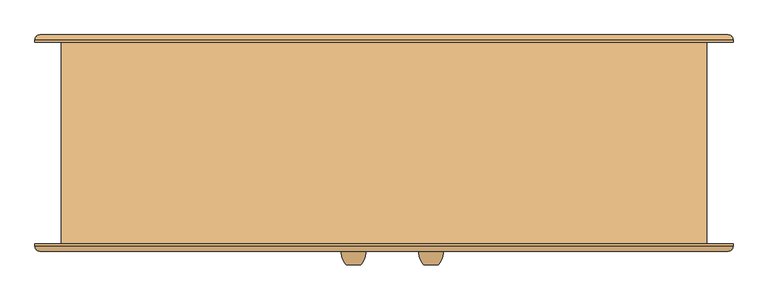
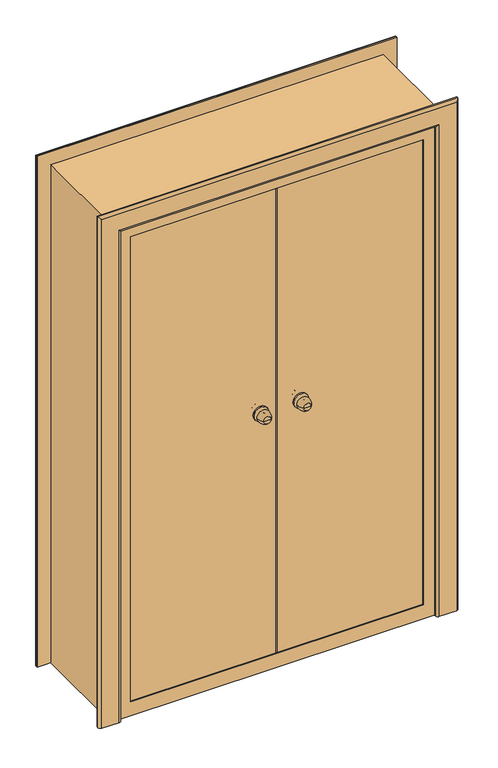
"""IFC4 building model written with IfcOpenShell, lengths in millimetres: door geometry, Наружная дверь 2-Навесная - Один проем наружу с порогом - 31173-2003 : ДСН ДКН М2 2100-1300 ГОСТ 31173-2003."""

from ifc_helpers import new_model, si_unit, point, frame, origin, place, context, project, spatial, polyline, circle_curve, ellipse_curve, trimmed, outline, extrude, faceted_brep, source, transform, mapped, element, save
from ifc_brep_helpers import plane_surface, cylinder_surface, revolved_surface, advanced_brep


def door_dd7598a4(model_context):
    return source(origin(), model_context, "Body", "SolidModel", [
        advanced_brep(
        [(113.0, -253.0, 1100.0), (83.0, -253.0, 1100.0), (98.0, -253.0, 1100.0), (123.0, -223.0, 1100.0), (73.0, -223.0, 1100.0), (116.0, -223.0, 1100.0), (80.0, -223.0, 1100.0), (108.0, -215.0, 1100.0), (88.0, -215.0, 1100.0), (108.0, -209.0, 1100.0), (88.0, -209.0, 1100.0), (68.0, -209.0, 1100.0), (128.0, -209.0, 1100.0), (68.0, -203.0, 1100.0), (128.0, -203.0, 1100.0)],
        [
            (0, 1, circle_curve(frame((98.0, -253.0, 1100.0), z_axis=(0.0, -1.0, 0.0), x_axis=(-1.0, 0.0, 0.0)), 15.0)),
            (1, 2),
            (2, 0),
            (1, 0, circle_curve(frame((98.0, -253.0, 1100.0), z_axis=(0.0, -1.0, 0.0), x_axis=(-1.0, 0.0, 0.0)), 15.0)),
            (0, 3, circle_curve(frame((88.3773735, -228.1257912, 1100.0), z_axis=(0.0, 0.0, 1.0), x_axis=(-1.0, 0.0, 0.0)), 35.0)),
            (3, 4, circle_curve(frame((98.0, -223.0, 1100.0), z_axis=(0.0, -1.0, 0.0), x_axis=(-1.0, 0.0, 0.0)), 25.0)),
            (4, 1, circle_curve(frame((107.6226265, -228.1257912, 1100.0), z_axis=(0.0, 0.0, 1.0), x_axis=(1.0, 0.0, 0.0)), 35.0)),
            (4, 3, circle_curve(frame((98.0, -223.0, 1100.0), z_axis=(0.0, -1.0, 0.0), x_axis=(-1.0, 0.0, 0.0)), 25.0)),
            (3, 5),
            (5, 6, circle_curve(frame((98.0, -223.0, 1100.0), z_axis=(0.0, -1.0, 0.0), x_axis=(-1.0, 0.0, 0.0)), 18.0)),
            (6, 4),
            (6, 5, circle_curve(frame((98.0, -223.0, 1100.0), z_axis=(0.0, -1.0, 0.0), x_axis=(-1.0, 0.0, 0.0)), 18.0)),
            (5, 7, circle_curve(frame((116.0, -215.0, 1100.0), z_axis=(0.0, 0.0, -1.0), x_axis=(-1.0, 0.0, 0.0)), 8.0)),
            (7, 8, circle_curve(frame((98.0, -215.0, 1100.0), z_axis=(0.0, -1.0, 0.0), x_axis=(-1.0, 0.0, 0.0)), 10.0)),
            (8, 6, circle_curve(frame((80.0, -215.0, 1100.0), z_axis=(0.0, 0.0, -1.0), x_axis=(1.0, 0.0, 0.0)), 8.0)),
            (8, 7, circle_curve(frame((98.0, -215.0, 1100.0), z_axis=(0.0, -1.0, 0.0), x_axis=(-1.0, 0.0, 0.0)), 10.0)),
            (7, 9),
            (9, 10, circle_curve(frame((98.0, -209.0, 1100.0), z_axis=(0.0, -1.0, 0.0), x_axis=(-1.0, 0.0, 0.0)), 10.0)),
            (10, 8),
            (10, 9, circle_curve(frame((98.0, -209.0, 1100.0), z_axis=(0.0, -1.0, 0.0), x_axis=(-1.0, 0.0, 0.0)), 10.0)),
            (11, 12, circle_curve(frame((98.0, -209.0, 1100.0), z_axis=(0.0, -1.0, 0.0), x_axis=(1.0, 0.0, 0.0)), 30.0)),
            (12, 11, circle_curve(frame((98.0, -209.0, 1100.0), z_axis=(0.0, -1.0, 0.0), x_axis=(1.0, 0.0, 0.0)), 30.0)),
            (13, 14, circle_curve(frame((98.0, -203.0, 1100.0), z_axis=(0.0, 1.0, 0.0), x_axis=(1.0, 0.0, 0.0)), 30.0)),
            (14, 13, circle_curve(frame((98.0, -203.0, 1100.0), z_axis=(0.0, 1.0, 0.0), x_axis=(1.0, 0.0, 0.0)), 30.0)),
            (11, 13),
            (14, 12),
        ],
        [
            plane_surface(frame((98.0, -253.0, 1100.0), z_axis=(0.0, -1.0, 0.0), x_axis=(-1.0, 0.0, 0.0))),
            revolved_surface(trimmed(ellipse_curve(frame((107.6226265, -228.1257912, 1100.0), z_axis=(0.0, 0.0, -1.0), x_axis=(1.0, 0.0, 0.0)), 35.0, 35.0), [point((83.0, -253.0, 1100.0))], [point((73.0, -223.0, 1100.0))], True, "CARTESIAN"), (98.0, -283.0, 1100.0), (0.0, 1.0, 0.0)),
            plane_surface(frame((98.0, -223.0, 1100.0), z_axis=(0.0, 1.0, 0.0), x_axis=(-1.0, 0.0, 0.0))),
            revolved_surface(trimmed(ellipse_curve(frame((80.0, -215.0, 1100.0), z_axis=(0.0, 0.0, 1.0), x_axis=(1.0, 0.0, 0.0)), 8.0, 8.0), [point((80.0, -223.0, 1100.0))], [point((88.0, -215.0, 1100.0))], True, "CARTESIAN"), (98.0, -283.0, 1100.0), (0.0, 1.0, 0.0)),
            cylinder_surface(frame((98.0, -283.0, 1100.0), z_axis=(0.0, 1.0, 0.0), x_axis=(-1.0, 0.0, 0.0)), 10.0),
            plane_surface(frame((128.0, -209.0, 1100.0), z_axis=(0.0, -1.0, 0.0), x_axis=(0.0, 0.0, 1.0))),
            plane_surface(frame((128.0, -203.0, 1100.0), z_axis=(0.0, 1.0, 0.0), x_axis=(0.0, 0.0, -1.0))),
            cylinder_surface(frame((98.0, -203.0, 1100.0), z_axis=(0.0, -1.0, 0.0), x_axis=(1.0, 0.0, 0.0)), 30.0),
        ],
        [
            (0, [[1, 2, 3]]),
            (0, [[-2, 4, -3]]),
            (1, [[-1, 5, 6, 7]]),
            (1, [[-4, -7, 8, -5]]),
            (2, [[-6, 9, 10, 11]]),
            (2, [[-8, -11, 12, -9]]),
            (3, [[-10, 13, 14, 15]]),
            (3, [[-12, -15, 16, -13]]),
            (4, [[-14, 17, 18, 19]]),
            (4, [[-16, -19, 20, -17]]),
            (5, [[21, 22], [-18, -20]]),
            (6, [[23, 24]]),
            (7, [[-21, 25, -24, 26]]),
            (7, [[-22, -26, -23, -25]]),
        ],
    ),
        advanced_brep(
        [(83.0, -113.0, 1100.0), (113.0, -113.0, 1100.0), (98.0, -113.0, 1100.0), (73.0, -143.0, 1100.0), (123.0, -143.0, 1100.0), (80.0, -143.0, 1100.0), (116.0, -143.0, 1100.0), (88.0, -151.0, 1100.0), (108.0, -151.0, 1100.0), (88.0, -157.0, 1100.0), (108.0, -157.0, 1100.0), (128.0, -157.0, 1100.0), (68.0, -157.0, 1100.0), (128.0, -163.0, 1100.0), (68.0, -163.0, 1100.0)],
        [
            (0, 1, circle_curve(frame((98.0, -113.0, 1100.0), z_axis=(0.0, 1.0, 0.0), x_axis=(1.0, 0.0, 0.0)), 15.0)),
            (1, 2),
            (2, 0),
            (1, 0, circle_curve(frame((98.0, -113.0, 1100.0), z_axis=(0.0, 1.0, 0.0), x_axis=(1.0, 0.0, 0.0)), 15.0)),
            (0, 3, circle_curve(frame((107.6226265, -137.8742088, 1100.0), z_axis=(0.0, 0.0, 1.0), x_axis=(1.0, 0.0, 0.0)), 35.0)),
            (3, 4, circle_curve(frame((98.0, -143.0, 1100.0), z_axis=(0.0, 1.0, 0.0), x_axis=(1.0, 0.0, 0.0)), 25.0)),
            (4, 1, circle_curve(frame((88.3773735, -137.8742088, 1100.0), z_axis=(0.0, 0.0, 1.0), x_axis=(-1.0, 0.0, 0.0)), 35.0)),
            (4, 3, circle_curve(frame((98.0, -143.0, 1100.0), z_axis=(0.0, 1.0, 0.0), x_axis=(1.0, 0.0, 0.0)), 25.0)),
            (3, 5),
            (5, 6, circle_curve(frame((98.0, -143.0, 1100.0), z_axis=(0.0, 1.0, 0.0), x_axis=(1.0, 0.0, 0.0)), 18.0)),
            (6, 4),
            (6, 5, circle_curve(frame((98.0, -143.0, 1100.0), z_axis=(0.0, 1.0, 0.0), x_axis=(1.0, 0.0, 0.0)), 18.0)),
            (5, 7, circle_curve(frame((80.0, -151.0, 1100.0), z_axis=(0.0, 0.0, -1.0), x_axis=(1.0, 0.0, 0.0)), 8.0)),
            (7, 8, circle_curve(frame((98.0, -151.0, 1100.0), z_axis=(0.0, 1.0, 0.0), x_axis=(1.0, 0.0, 0.0)), 10.0)),
            (8, 6, circle_curve(frame((116.0, -151.0, 1100.0), z_axis=(0.0, 0.0, -1.0), x_axis=(-1.0, 0.0, 0.0)), 8.0)),
            (8, 7, circle_curve(frame((98.0, -151.0, 1100.0), z_axis=(0.0, 1.0, 0.0), x_axis=(1.0, 0.0, 0.0)), 10.0)),
            (7, 9),
            (9, 10, circle_curve(frame((98.0, -157.0, 1100.0), z_axis=(0.0, 1.0, 0.0), x_axis=(1.0, 0.0, 0.0)), 10.0)),
            (10, 8),
            (10, 9, circle_curve(frame((98.0, -157.0, 1100.0), z_axis=(0.0, 1.0, 0.0), x_axis=(1.0, 0.0, 0.0)), 10.0)),
            (11, 12, circle_curve(frame((98.0, -157.0, 1100.0), z_axis=(0.0, 1.0, 0.0), x_axis=(-1.0, 0.0, 0.0)), 30.0)),
            (12, 11, circle_curve(frame((98.0, -157.0, 1100.0), z_axis=(0.0, 1.0, 0.0), x_axis=(-1.0, 0.0, 0.0)), 30.0)),
            (13, 14, circle_curve(frame((98.0, -163.0, 1100.0), z_axis=(0.0, -1.0, 0.0), x_axis=(-1.0, 0.0, 0.0)), 30.0)),
            (14, 13, circle_curve(frame((98.0, -163.0, 1100.0), z_axis=(0.0, -1.0, 0.0), x_axis=(-1.0, 0.0, 0.0)), 30.0)),
            (11, 13),
            (14, 12),
        ],
        [
            plane_surface(frame((98.0, -113.0, 1100.0), z_axis=(0.0, 1.0, 0.0), x_axis=(1.0, 0.0, 0.0))),
            revolved_surface(trimmed(ellipse_curve(frame((88.3773735, -137.8742088, 1100.0), z_axis=(0.0, 0.0, -1.0), x_axis=(-1.0, 0.0, 0.0)), 35.0, 35.0), [point((113.0, -113.0, 1100.0))], [point((123.0, -143.0, 1100.0))], True, "CARTESIAN"), (98.0, -83.0, 1100.0), (0.0, -1.0, 0.0)),
            plane_surface(frame((98.0, -143.0, 1100.0), z_axis=(0.0, -1.0, 0.0), x_axis=(1.0, 0.0, 0.0))),
            revolved_surface(trimmed(ellipse_curve(frame((116.0, -151.0, 1100.0), z_axis=(0.0, 0.0, 1.0), x_axis=(-1.0, 0.0, 0.0)), 8.0, 8.0), [point((116.0, -143.0, 1100.0))], [point((108.0, -151.0, 1100.0))], True, "CARTESIAN"), (98.0, -83.0, 1100.0), (0.0, -1.0, 0.0)),
            cylinder_surface(frame((98.0, -83.0, 1100.0), z_axis=(0.0, -1.0, 0.0), x_axis=(1.0, 0.0, 0.0)), 10.0),
            plane_surface(frame((68.0, -157.0, 1100.0), z_axis=(0.0, 1.0, 0.0), x_axis=(0.0, 0.0, 1.0))),
            plane_surface(frame((68.0, -163.0, 1100.0), z_axis=(0.0, -1.0, 0.0), x_axis=(0.0, 0.0, -1.0))),
            cylinder_surface(frame((98.0, -163.0, 1100.0), z_axis=(0.0, 1.0, 0.0), x_axis=(-1.0, 0.0, 0.0)), 30.0),
        ],
        [
            (0, [[1, 2, 3]]),
            (0, [[-2, 4, -3]]),
            (1, [[-1, 5, 6, 7]]),
            (1, [[-4, -7, 8, -5]]),
            (2, [[-6, 9, 10, 11]]),
            (2, [[-8, -11, 12, -9]]),
            (3, [[-10, 13, 14, 15]]),
            (3, [[-12, -15, 16, -13]]),
            (4, [[-14, 17, 18, 19]]),
            (4, [[-16, -19, 20, -17]]),
            (5, [[21, 22], [-18, -20]]),
            (6, [[23, 24]]),
            (7, [[-21, 25, -24, 26]]),
            (7, [[-22, -26, -23, -25]]),
        ],
    ),
        advanced_brep(
        [(-48.0, -253.0, 1100.0), (-78.0, -253.0, 1100.0), (-63.0, -253.0, 1100.0), (-38.0, -223.0, 1100.0), (-88.0, -223.0, 1100.0), (-45.0, -223.0, 1100.0), (-81.0, -223.0, 1100.0), (-53.0, -215.0, 1100.0), (-73.0, -215.0, 1100.0), (-53.0, -209.0, 1100.0), (-73.0, -209.0, 1100.0), (-93.0, -209.0, 1100.0), (-33.0, -209.0, 1100.0), (-93.0, -203.0, 1100.0), (-33.0, -203.0, 1100.0)],
        [
            (0, 1, circle_curve(frame((-63.0, -253.0, 1100.0), z_axis=(0.0, -1.0, 0.0), x_axis=(-1.0, 0.0, 0.0)), 15.0)),
            (1, 2),
            (2, 0),
            (1, 0, circle_curve(frame((-63.0, -253.0, 1100.0), z_axis=(0.0, -1.0, 0.0), x_axis=(-1.0, 0.0, 0.0)), 15.0)),
            (0, 3, circle_curve(frame((-72.6226265, -228.1257912, 1100.0), z_axis=(0.0, 0.0, 1.0), x_axis=(-1.0, 0.0, 0.0)), 35.0)),
            (3, 4, circle_curve(frame((-63.0, -223.0, 1100.0), z_axis=(0.0, -1.0, 0.0), x_axis=(-1.0, 0.0, 0.0)), 25.0)),
            (4, 1, circle_curve(frame((-53.3773735, -228.1257912, 1100.0), z_axis=(0.0, 0.0, 1.0), x_axis=(1.0, 0.0, 0.0)), 35.0)),
            (4, 3, circle_curve(frame((-63.0, -223.0, 1100.0), z_axis=(0.0, -1.0, 0.0), x_axis=(-1.0, 0.0, 0.0)), 25.0)),
            (3, 5),
            (5, 6, circle_curve(frame((-63.0, -223.0, 1100.0), z_axis=(0.0, -1.0, 0.0), x_axis=(-1.0, 0.0, 0.0)), 18.0)),
            (6, 4),
            (6, 5, circle_curve(frame((-63.0, -223.0, 1100.0), z_axis=(0.0, -1.0, 0.0), x_axis=(-1.0, 0.0, 0.0)), 18.0)),
            (5, 7, circle_curve(frame((-45.0, -215.0, 1100.0), z_axis=(0.0, 0.0, -1.0), x_axis=(-1.0, 0.0, 0.0)), 8.0)),
            (7, 8, circle_curve(frame((-63.0, -215.0, 1100.0), z_axis=(0.0, -1.0, 0.0), x_axis=(-1.0, 0.0, 0.0)), 10.0)),
            (8, 6, circle_curve(frame((-81.0, -215.0, 1100.0), z_axis=(0.0, 0.0, -1.0), x_axis=(1.0, 0.0, 0.0)), 8.0)),
            (8, 7, circle_curve(frame((-63.0, -215.0, 1100.0), z_axis=(0.0, -1.0, 0.0), x_axis=(-1.0, 0.0, 0.0)), 10.0)),
            (7, 9),
            (9, 10, circle_curve(frame((-63.0, -209.0, 1100.0), z_axis=(0.0, -1.0, 0.0), x_axis=(-1.0, 0.0, 0.0)), 10.0)),
            (10, 8),
            (10, 9, circle_curve(frame((-63.0, -209.0, 1100.0), z_axis=(0.0, -1.0, 0.0), x_axis=(-1.0, 0.0, 0.0)), 10.0)),
            (11, 12, circle_curve(frame((-63.0, -209.0, 1100.0), z_axis=(0.0, -1.0, 0.0), x_axis=(1.0, 0.0, 0.0)), 30.0)),
            (12, 11, circle_curve(frame((-63.0, -209.0, 1100.0), z_axis=(0.0, -1.0, 0.0), x_axis=(1.0, 0.0, 0.0)), 30.0)),
            (13, 14, circle_curve(frame((-63.0, -203.0, 1100.0), z_axis=(0.0, 1.0, 0.0), x_axis=(1.0, 0.0, 0.0)), 30.0)),
            (14, 13, circle_curve(frame((-63.0, -203.0, 1100.0), z_axis=(0.0, 1.0, 0.0), x_axis=(1.0, 0.0, 0.0)), 30.0)),
            (11, 13),
            (14, 12),
        ],
        [
            plane_surface(frame((-63.0, -253.0, 1100.0), z_axis=(0.0, -1.0, 0.0), x_axis=(-1.0, 0.0, 0.0))),
            revolved_surface(trimmed(ellipse_curve(frame((-53.3773735, -228.1257912, 1100.0), z_axis=(0.0, 0.0, -1.0), x_axis=(1.0, 0.0, 0.0)), 35.0, 35.0), [point((-78.0, -253.0, 1100.0))], [point((-88.0, -223.0, 1100.0))], True, "CARTESIAN"), (-63.0, -283.0, 1100.0), (0.0, 1.0, 0.0)),
            plane_surface(frame((-63.0, -223.0, 1100.0), z_axis=(0.0, 1.0, 0.0), x_axis=(-1.0, 0.0, 0.0))),
            revolved_surface(trimmed(ellipse_curve(frame((-81.0, -215.0, 1100.0), z_axis=(0.0, 0.0, 1.0), x_axis=(1.0, 0.0, 0.0)), 8.0, 8.0), [point((-81.0, -223.0, 1100.0))], [point((-73.0, -215.0, 1100.0))], True, "CARTESIAN"), (-63.0, -283.0, 1100.0), (0.0, 1.0, 0.0)),
            cylinder_surface(frame((-63.0, -283.0, 1100.0), z_axis=(0.0, 1.0, 0.0), x_axis=(-1.0, 0.0, 0.0)), 10.0),
            plane_surface(frame((-33.0, -209.0, 1100.0), z_axis=(0.0, -1.0, 0.0), x_axis=(0.0, 0.0, 1.0))),
            plane_surface(frame((-33.0, -203.0, 1100.0), z_axis=(0.0, 1.0, 0.0), x_axis=(0.0, 0.0, -1.0))),
            cylinder_surface(frame((-63.0, -203.0, 1100.0), z_axis=(0.0, -1.0, 0.0), x_axis=(1.0, 0.0, 0.0)), 30.0),
        ],
        [
            (0, [[1, 2, 3]]),
            (0, [[-2, 4, -3]]),
            (1, [[-1, 5, 6, 7]]),
            (1, [[-4, -7, 8, -5]]),
            (2, [[-6, 9, 10, 11]]),
            (2, [[-8, -11, 12, -9]]),
            (3, [[-10, 13, 14, 15]]),
            (3, [[-12, -15, 16, -13]]),
            (4, [[-14, 17, 18, 19]]),
            (4, [[-16, -19, 20, -17]]),
            (5, [[21, 22], [-18, -20]]),
            (6, [[23, 24]]),
            (7, [[-21, 25, -24, 26]]),
            (7, [[-22, -26, -23, -25]]),
        ],
    ),
        advanced_brep(
        [(-78.0, -113.0, 1100.0), (-48.0, -113.0, 1100.0), (-63.0, -113.0, 1100.0), (-88.0, -143.0, 1100.0), (-38.0, -143.0, 1100.0), (-81.0, -143.0, 1100.0), (-45.0, -143.0, 1100.0), (-73.0, -151.0, 1100.0), (-53.0, -151.0, 1100.0), (-73.0, -157.0, 1100.0), (-53.0, -157.0, 1100.0), (-33.0, -157.0, 1100.0), (-93.0, -157.0, 1100.0), (-33.0, -163.0, 1100.0), (-93.0, -163.0, 1100.0)],
        [
            (0, 1, circle_curve(frame((-63.0, -113.0, 1100.0), z_axis=(0.0, 1.0, 0.0), x_axis=(1.0, 0.0, 0.0)), 15.0)),
            (1, 2),
            (2, 0),
            (1, 0, circle_curve(frame((-63.0, -113.0, 1100.0), z_axis=(0.0, 1.0, 0.0), x_axis=(1.0, 0.0, 0.0)), 15.0)),
            (0, 3, circle_curve(frame((-53.3773735, -137.8742088, 1100.0), z_axis=(0.0, 0.0, 1.0), x_axis=(1.0, 0.0, 0.0)), 35.0)),
            (3, 4, circle_curve(frame((-63.0, -143.0, 1100.0), z_axis=(0.0, 1.0, 0.0), x_axis=(1.0, 0.0, 0.0)), 25.0)),
            (4, 1, circle_curve(frame((-72.6226265, -137.8742088, 1100.0), z_axis=(0.0, 0.0, 1.0), x_axis=(-1.0, 0.0, 0.0)), 35.0)),
            (4, 3, circle_curve(frame((-63.0, -143.0, 1100.0), z_axis=(0.0, 1.0, 0.0), x_axis=(1.0, 0.0, 0.0)), 25.0)),
            (3, 5),
            (5, 6, circle_curve(frame((-63.0, -143.0, 1100.0), z_axis=(0.0, 1.0, 0.0), x_axis=(1.0, 0.0, 0.0)), 18.0)),
            (6, 4),
            (6, 5, circle_curve(frame((-63.0, -143.0, 1100.0), z_axis=(0.0, 1.0, 0.0), x_axis=(1.0, 0.0, 0.0)), 18.0)),
            (5, 7, circle_curve(frame((-81.0, -151.0, 1100.0), z_axis=(0.0, 0.0, -1.0), x_axis=(1.0, 0.0, 0.0)), 8.0)),
            (7, 8, circle_curve(frame((-63.0, -151.0, 1100.0), z_axis=(0.0, 1.0, 0.0), x_axis=(1.0, 0.0, 0.0)), 10.0)),
            (8, 6, circle_curve(frame((-45.0, -151.0, 1100.0), z_axis=(0.0, 0.0, -1.0), x_axis=(-1.0, 0.0, 0.0)), 8.0)),
            (8, 7, circle_curve(frame((-63.0, -151.0, 1100.0), z_axis=(0.0, 1.0, 0.0), x_axis=(1.0, 0.0, 0.0)), 10.0)),
            (7, 9),
            (9, 10, circle_curve(frame((-63.0, -157.0, 1100.0), z_axis=(0.0, 1.0, 0.0), x_axis=(1.0, 0.0, 0.0)), 10.0)),
            (10, 8),
            (10, 9, circle_curve(frame((-63.0, -157.0, 1100.0), z_axis=(0.0, 1.0, 0.0), x_axis=(1.0, 0.0, 0.0)), 10.0)),
            (11, 12, circle_curve(frame((-63.0, -157.0, 1100.0), z_axis=(0.0, 1.0, 0.0), x_axis=(-1.0, 0.0, 0.0)), 30.0)),
            (12, 11, circle_curve(frame((-63.0, -157.0, 1100.0), z_axis=(0.0, 1.0, 0.0), x_axis=(-1.0, 0.0, 0.0)), 30.0)),
            (13, 14, circle_curve(frame((-63.0, -163.0, 1100.0), z_axis=(0.0, -1.0, 0.0), x_axis=(-1.0, 0.0, 0.0)), 30.0)),
            (14, 13, circle_curve(frame((-63.0, -163.0, 1100.0), z_axis=(0.0, -1.0, 0.0), x_axis=(-1.0, 0.0, 0.0)), 30.0)),
            (11, 13),
            (14, 12),
        ],
        [
            plane_surface(frame((-63.0, -113.0, 1100.0), z_axis=(0.0, 1.0, 0.0), x_axis=(1.0, 0.0, 0.0))),
            revolved_surface(trimmed(ellipse_curve(frame((-72.6226265, -137.8742088, 1100.0), z_axis=(0.0, 0.0, -1.0), x_axis=(-1.0, 0.0, 0.0)), 35.0, 35.0), [point((-48.0, -113.0, 1100.0))], [point((-38.0, -143.0, 1100.0))], True, "CARTESIAN"), (-63.0, -83.0, 1100.0), (0.0, -1.0, 0.0)),
            plane_surface(frame((-63.0, -143.0, 1100.0), z_axis=(0.0, -1.0, 0.0), x_axis=(1.0, 0.0, 0.0))),
            revolved_surface(trimmed(ellipse_curve(frame((-45.0, -151.0, 1100.0), z_axis=(0.0, 0.0, 1.0), x_axis=(-1.0, 0.0, 0.0)), 8.0, 8.0), [point((-45.0, -143.0, 1100.0))], [point((-53.0, -151.0, 1100.0))], True, "CARTESIAN"), (-63.0, -83.0, 1100.0), (0.0, -1.0, 0.0)),
            cylinder_surface(frame((-63.0, -83.0, 1100.0), z_axis=(0.0, -1.0, 0.0), x_axis=(1.0, 0.0, 0.0)), 10.0),
            plane_surface(frame((-93.0, -157.0, 1100.0), z_axis=(0.0, 1.0, 0.0), x_axis=(0.0, 0.0, 1.0))),
            plane_surface(frame((-93.0, -163.0, 1100.0), z_axis=(0.0, -1.0, 0.0), x_axis=(0.0, 0.0, -1.0))),
            cylinder_surface(frame((-63.0, -163.0, 1100.0), z_axis=(0.0, 1.0, 0.0), x_axis=(-1.0, 0.0, 0.0)), 30.0),
        ],
        [
            (0, [[1, 2, 3]]),
            (0, [[-2, 4, -3]]),
            (1, [[-1, 5, 6, 7]]),
            (1, [[-4, -7, 8, -5]]),
            (2, [[-6, 9, 10, 11]]),
            (2, [[-8, -11, 12, -9]]),
            (3, [[-10, 13, 14, 15]]),
            (3, [[-12, -15, 16, -13]]),
            (4, [[-14, 17, 18, 19]]),
            (4, [[-16, -19, 20, -17]]),
            (5, [[21, 22], [-18, -20]]),
            (6, [[23, 24]]),
            (7, [[-21, 25, -24, 26]]),
            (7, [[-22, -26, -23, -25]]),
        ],
    ),
        faceted_brep([(38.0, -163.0, 25.0), (625.0, -163.0, 25.0), (625.0, -168.0, 25.0), (38.0, -168.0, 25.0), (38.0, -163.0, 2075.0), (625.0, -163.0, 2075.0), (625.0, -168.0, 2075.0), (38.0, -168.0, 2075.0), (38.0, -168.0, 2055.0), (605.0, -168.0, 2055.0), (605.0, -168.0, 45.0), (38.0, -168.0, 45.0), (38.0, -184.0, 45.0), (38.0, -184.0, 2055.0), (605.0, -203.0, 2055.0), (605.0, -203.0, 45.0), (3.0, -203.0, 45.0), (3.0, -184.0, 45.0), (3.0, -203.0, 2055.0), (3.0, -184.0, 2055.0)], [[[0, 1, 2, 3]], [[4, 5, 1, 0]], [[5, 6, 2, 1]], [[6, 7, 8, 9, 10, 11, 3, 2]], [[4, 0, 3, 11, 12, 13, 8, 7]], [[9, 14, 15, 10]], [[11, 10, 15, 16, 17, 12]], [[14, 18, 16, 15]], [[18, 19, 17, 16]], [[19, 13, 12, 17]], [[9, 8, 13, 19, 18, 14]], [[6, 5, 4, 7]]]),
        faceted_brep([(32.0, -168.0, 25.0), (-625.0, -168.0, 25.0), (-625.0, -163.0, 25.0), (32.0, -163.0, 25.0), (32.0, -168.0, 45.0), (-605.0, -168.0, 45.0), (-605.0, -168.0, 2055.0), (32.0, -168.0, 2055.0), (32.0, -168.0, 2075.0), (-625.0, -168.0, 2075.0), (-625.0, -163.0, 2075.0), (32.0, -163.0, 2075.0), (32.0, -178.0, 2055.0), (32.0, -178.0, 45.0), (-3.0, -178.0, 45.0), (-3.0, -203.0, 45.0), (-605.0, -203.0, 45.0), (-605.0, -203.0, 2055.0), (-3.0, -203.0, 2055.0), (-3.0, -178.0, 2055.0)], [[[0, 1, 2, 3]], [[0, 4, 5, 6, 7, 8, 9, 1]], [[1, 9, 10, 2]], [[10, 11, 3, 2]], [[3, 11, 8, 7, 12, 13, 4, 0]], [[5, 4, 13, 14, 15, 16]], [[17, 6, 5, 16]], [[18, 17, 16, 15]], [[19, 18, 15, 14]], [[12, 19, 14, 13]], [[11, 10, 9, 8]], [[7, 6, 17, 18, 19, 12]]]),
        extrude(outline(polyline([(0.0, 635.0), (0.0, 650.0), (2100.0, 650.0), (2100.0, -650.0), (0.0, -650.0), (0.0, -635.0), (2085.0, -635.0), (2085.0, 635.0), (0.0, 635.0)])), frame((0.0, -170.0, 0.0), z_axis=(0.0, 1.0, 0.0), x_axis=(0.0, 0.0, 1.0)), (0.0, 0.0, 1.0), 380.0),
        faceted_brep([(650.0, -170.0, 0.0), (650.0, -210.0, 0.0), (-650.0, -210.0, 0.0), (-650.0, -170.0, 0.0), (-650.0, -210.0, 2100.0), (-650.0, -170.0, 2100.0), (650.0, -210.0, 2100.0), (-590.0, -210.0, 2040.0), (590.0, -210.0, 2040.0), (590.0, -210.0, 60.0), (-590.0, -210.0, 60.0), (650.0, -170.0, 2100.0), (-610.0, -170.0, 40.0), (610.0, -170.0, 40.0), (610.0, -170.0, 2060.0), (-610.0, -170.0, 2060.0), (610.0, -205.0, 40.0), (-610.0, -205.0, 40.0), (-610.0, -205.0, 2060.0), (610.0, -205.0, 2060.0), (-590.0, -205.0, 60.0), (590.0, -205.0, 60.0), (590.0, -205.0, 2040.0), (-590.0, -205.0, 2040.0)], [[[0, 1, 2, 3]], [[3, 2, 4, 5]], [[2, 1, 6, 4], [7, 8, 9, 10]], [[5, 11, 0, 3], [12, 13, 14, 15]], [[16, 13, 12, 17]], [[17, 12, 15, 18]], [[18, 19, 16, 17], [20, 21, 22, 23]], [[9, 21, 20, 10]], [[10, 20, 23, 7]], [[11, 6, 1, 0]], [[19, 14, 13, 16]], [[8, 22, 21, 9]], [[5, 4, 6, 11]], [[18, 15, 14, 19]], [[7, 23, 22, 8]]]),
        advanced_brep(
        [(-725.0, -210.0, 0.0), (-635.0, -210.0, 0.0), (-635.0, -215.0, 0.0), (-645.0, -225.0, 0.0), (-715.0, -225.0, 0.0), (-725.0, -215.0, 0.0), (-725.0, -210.0, 2175.0), (725.0, -210.0, 2175.0), (725.0, -210.0, 0.0), (635.0, -210.0, 0.0), (635.0, -210.0, 2085.0), (-635.0, -210.0, 2085.0), (-635.0, -215.0, 2085.0), (-645.0, -225.0, 2095.0), (645.0, -225.0, 2095.0), (645.0, -225.0, 0.0), (715.0, -225.0, 0.0), (715.0, -225.0, 2165.0), (-715.0, -225.0, 2165.0), (-725.0, -215.0, 2175.0), (725.0, -215.0, 2175.0), (725.0, -215.0, 0.0), (635.0, -215.0, 0.0), (635.0, -215.0, 2085.0)],
        [
            (0, 1),
            (1, 2),
            (2, 3, circle_curve(frame((-645.0, -215.0, 0.0), z_axis=(0.0, 0.0, -1.0), x_axis=(-1.0, 0.0, 0.0)), 10.0)),
            (3, 4),
            (4, 5, circle_curve(frame((-715.0, -215.0, 0.0), z_axis=(0.0, 0.0, -1.0), x_axis=(-1.0, 0.0, 0.0)), 10.0)),
            (5, 0),
            (0, 6),
            (6, 7),
            (7, 8),
            (8, 9),
            (9, 10),
            (10, 11),
            (11, 1),
            (11, 12),
            (12, 2),
            (12, 13, ellipse_curve(frame((-645.0, -215.0, 2095.0), z_axis=(-0.7071067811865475, 0.0, -0.7071067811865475), x_axis=(0.7071067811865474, 0.0, -0.7071067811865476)), 14.1421356, 10.0)),
            (13, 3),
            (13, 14),
            (14, 15),
            (15, 16),
            (16, 17),
            (17, 18),
            (18, 4),
            (18, 19, ellipse_curve(frame((-715.0, -215.0, 2165.0), z_axis=(-0.7071067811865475, 0.0, -0.7071067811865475), x_axis=(0.7071067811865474, 0.0, -0.7071067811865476)), 14.1421356, 10.0)),
            (19, 5),
            (19, 6),
            (7, 20),
            (20, 21),
            (21, 8),
            (21, 16, circle_curve(frame((715.0, -215.0, 0.0), z_axis=(0.0, 0.0, -1.0), x_axis=(1.0, 0.0, 0.0)), 10.0)),
            (15, 22, circle_curve(frame((645.0, -215.0, 0.0), z_axis=(0.0, 0.0, -1.0), x_axis=(1.0, 0.0, 0.0)), 10.0)),
            (22, 9),
            (23, 10),
            (22, 23),
            (14, 23, ellipse_curve(frame((645.0, -215.0, 2095.0), z_axis=(0.7071067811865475, 0.0, -0.7071067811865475), x_axis=(0.7071067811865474, 0.0, 0.7071067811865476)), 14.1421356, 10.0)),
            (20, 17, ellipse_curve(frame((715.0, -215.0, 2165.0), z_axis=(0.7071067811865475, 0.0, -0.7071067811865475), x_axis=(0.7071067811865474, 0.0, 0.7071067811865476)), 14.1421356, 10.0)),
            (23, 12),
            (20, 19),
        ],
        [
            plane_surface(frame((-670.0, -210.0, 0.0), z_axis=(0.0, 0.0, -1.0), x_axis=(0.0, -1.0, 0.0))),
            plane_surface(frame((-725.0, -210.0, 0.0), z_axis=(0.0, 1.0, 0.0), x_axis=(0.0, 0.0, 1.0))),
            plane_surface(frame((-635.0, -210.0, 0.0), z_axis=(1.0, 0.0, 0.0), x_axis=(0.0, 0.0, 1.0))),
            cylinder_surface(frame((-645.0, -215.0, 0.0), z_axis=(0.0, 0.0, -1.0), x_axis=(-1.0, 0.0, 0.0)), 10.0),
            plane_surface(frame((-645.0, -225.0, 0.0), z_axis=(0.0, -1.0, 0.0), x_axis=(0.0, 0.0, 1.0))),
            cylinder_surface(frame((-715.0, -215.0, 0.0), z_axis=(0.0, 0.0, -1.0), x_axis=(-1.0, 0.0, 0.0)), 10.0),
            plane_surface(frame((-725.0, -215.0, 0.0), z_axis=(-1.0, 0.0, 0.0), x_axis=(0.0, 0.0, 1.0))),
            plane_surface(frame((725.0, -215.0, 2175.0), z_axis=(1.0, 0.0, 0.0), x_axis=(0.0, 0.0, -1.0))),
            plane_surface(frame((670.0, -210.0, 0.0), z_axis=(0.0, 0.0, -1.0), x_axis=(0.0, -1.0, 0.0))),
            plane_surface(frame((635.0, -210.0, 2085.0), z_axis=(-1.0, 0.0, 0.0), x_axis=(0.0, 0.0, -1.0))),
            cylinder_surface(frame((645.0, -215.0, 2120.0), z_axis=(0.0, 0.0, 1.0), x_axis=(1.0, 0.0, 0.0)), 10.0),
            cylinder_surface(frame((715.0, -215.0, 2120.0), z_axis=(0.0, 0.0, 1.0), x_axis=(1.0, 0.0, 0.0)), 10.0),
            plane_surface(frame((-635.0, -210.0, 2085.0), z_axis=(0.0, 0.0, -1.0), x_axis=(1.0, 0.0, 0.0))),
            cylinder_surface(frame((-670.0, -215.0, 2095.0), z_axis=(-1.0, 0.0, 0.0), x_axis=(0.0, 0.0, 1.0)), 10.0),
            cylinder_surface(frame((-670.0, -215.0, 2165.0), z_axis=(-1.0, 0.0, 0.0), x_axis=(0.0, 0.0, 1.0)), 10.0),
            plane_surface(frame((-725.0, -215.0, 2175.0), z_axis=(0.0, 0.0, 1.0), x_axis=(1.0, 0.0, 0.0))),
        ],
        [
            (0, [[1, 2, 3, 4, 5, 6]]),
            (1, [[-1, 7, 8, 9, 10, 11, 12, 13]]),
            (2, [[-2, -13, 14, 15]]),
            (3, [[-3, -15, 16, 17]]),
            (4, [[-4, -17, 18, 19, 20, 21, 22, 23]]),
            (5, [[-5, -23, 24, 25]]),
            (6, [[-6, -25, 26, -7]]),
            (7, [[27, 28, 29, -9]]),
            (8, [[-29, 30, -20, 31, 32, -10]]),
            (9, [[33, -11, -32, 34]]),
            (10, [[35, -34, -31, -19]]),
            (11, [[36, -21, -30, -28]]),
            (12, [[-14, -12, -33, 37]]),
            (13, [[-16, -37, -35, -18]]),
            (14, [[-24, -22, -36, 38]]),
            (15, [[-26, -38, -27, -8]]),
        ],
    ),
        advanced_brep(
        [(725.0, 210.0, 0.0), (635.0, 210.0, 0.0), (635.0, 215.0, 0.0), (645.0, 225.0, 0.0), (715.0, 225.0, 0.0), (725.0, 215.0, 0.0), (725.0, 210.0, 2175.0), (-725.0, 210.0, 2175.0), (-725.0, 210.0, 0.0), (-635.0, 210.0, 0.0), (-635.0, 210.0, 2085.0), (635.0, 210.0, 2085.0), (635.0, 215.0, 2085.0), (645.0, 225.0, 2095.0), (-645.0, 225.0, 2095.0), (-645.0, 225.0, 0.0), (-715.0, 225.0, 0.0), (-715.0, 225.0, 2165.0), (715.0, 225.0, 2165.0), (725.0, 215.0, 2175.0), (-725.0, 215.0, 2175.0), (-725.0, 215.0, 0.0), (-635.0, 215.0, 0.0), (-635.0, 215.0, 2085.0)],
        [
            (0, 1),
            (1, 2),
            (2, 3, circle_curve(frame((645.0, 215.0, 0.0), z_axis=(0.0, 0.0, -1.0), x_axis=(1.0, 0.0, 0.0)), 10.0)),
            (3, 4),
            (4, 5, circle_curve(frame((715.0, 215.0, 0.0), z_axis=(0.0, 0.0, -1.0), x_axis=(1.0, 0.0, 0.0)), 10.0)),
            (5, 0),
            (0, 6),
            (6, 7),
            (7, 8),
            (8, 9),
            (9, 10),
            (10, 11),
            (11, 1),
            (11, 12),
            (12, 2),
            (12, 13, ellipse_curve(frame((645.0, 215.0, 2095.0), z_axis=(0.7071067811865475, 0.0, -0.7071067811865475), x_axis=(-0.7071067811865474, 0.0, -0.7071067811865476)), 14.1421356, 10.0)),
            (13, 3),
            (13, 14),
            (14, 15),
            (15, 16),
            (16, 17),
            (17, 18),
            (18, 4),
            (18, 19, ellipse_curve(frame((715.0, 215.0, 2165.0), z_axis=(0.7071067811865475, 0.0, -0.7071067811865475), x_axis=(-0.7071067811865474, 0.0, -0.7071067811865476)), 14.1421356, 10.0)),
            (19, 5),
            (19, 6),
            (7, 20),
            (20, 21),
            (21, 8),
            (21, 16, circle_curve(frame((-715.0, 215.0, 0.0), z_axis=(0.0, 0.0, -1.0), x_axis=(-1.0, 0.0, 0.0)), 10.0)),
            (15, 22, circle_curve(frame((-645.0, 215.0, 0.0), z_axis=(0.0, 0.0, -1.0), x_axis=(-1.0, 0.0, 0.0)), 10.0)),
            (22, 9),
            (23, 10),
            (22, 23),
            (14, 23, ellipse_curve(frame((-645.0, 215.0, 2095.0), z_axis=(-0.7071067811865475, 0.0, -0.7071067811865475), x_axis=(-0.7071067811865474, 0.0, 0.7071067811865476)), 14.1421356, 10.0)),
            (20, 17, ellipse_curve(frame((-715.0, 215.0, 2165.0), z_axis=(-0.7071067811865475, 0.0, -0.7071067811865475), x_axis=(-0.7071067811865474, 0.0, 0.7071067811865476)), 14.1421356, 10.0)),
            (23, 12),
            (20, 19),
        ],
        [
            plane_surface(frame((670.0, 210.0, 0.0), z_axis=(0.0, 0.0, -1.0), x_axis=(0.0, -1.0, 0.0))),
            plane_surface(frame((725.0, 210.0, 0.0), z_axis=(0.0, -1.0, 0.0), x_axis=(0.0, 0.0, 1.0))),
            plane_surface(frame((635.0, 210.0, 0.0), z_axis=(-1.0, 0.0, 0.0), x_axis=(0.0, 0.0, 1.0))),
            cylinder_surface(frame((645.0, 215.0, 0.0), z_axis=(0.0, 0.0, -1.0), x_axis=(1.0, 0.0, 0.0)), 10.0),
            plane_surface(frame((645.0, 225.0, 0.0), z_axis=(0.0, 1.0, 0.0), x_axis=(0.0, 0.0, 1.0))),
            cylinder_surface(frame((715.0, 215.0, 0.0), z_axis=(0.0, 0.0, -1.0), x_axis=(1.0, 0.0, 0.0)), 10.0),
            plane_surface(frame((725.0, 215.0, 0.0), z_axis=(1.0, 0.0, 0.0), x_axis=(0.0, 0.0, 1.0))),
            plane_surface(frame((-725.0, 215.0, 2175.0), z_axis=(-1.0, 0.0, 0.0), x_axis=(0.0, 0.0, -1.0))),
            plane_surface(frame((-670.0, 210.0, 0.0), z_axis=(0.0, 0.0, -1.0), x_axis=(0.0, -1.0, 0.0))),
            plane_surface(frame((-635.0, 210.0, 2085.0), z_axis=(1.0, 0.0, 0.0), x_axis=(0.0, 0.0, -1.0))),
            cylinder_surface(frame((-645.0, 215.0, 2120.0), z_axis=(0.0, 0.0, 1.0), x_axis=(-1.0, 0.0, 0.0)), 10.0),
            cylinder_surface(frame((-715.0, 215.0, 2120.0), z_axis=(0.0, 0.0, 1.0), x_axis=(-1.0, 0.0, 0.0)), 10.0),
            plane_surface(frame((635.0, 210.0, 2085.0), z_axis=(0.0, 0.0, -1.0), x_axis=(-1.0, 0.0, 0.0))),
            cylinder_surface(frame((670.0, 215.0, 2095.0), z_axis=(1.0, 0.0, 0.0), x_axis=(0.0, 0.0, 1.0)), 10.0),
            cylinder_surface(frame((670.0, 215.0, 2165.0), z_axis=(1.0, 0.0, 0.0), x_axis=(0.0, 0.0, 1.0)), 10.0),
            plane_surface(frame((725.0, 215.0, 2175.0), z_axis=(0.0, 0.0, 1.0), x_axis=(-1.0, 0.0, 0.0))),
        ],
        [
            (0, [[1, 2, 3, 4, 5, 6]]),
            (1, [[-1, 7, 8, 9, 10, 11, 12, 13]]),
            (2, [[-2, -13, 14, 15]]),
            (3, [[-3, -15, 16, 17]]),
            (4, [[-4, -17, 18, 19, 20, 21, 22, 23]]),
            (5, [[-5, -23, 24, 25]]),
            (6, [[-6, -25, 26, -7]]),
            (7, [[27, 28, 29, -9]]),
            (8, [[-29, 30, -20, 31, 32, -10]]),
            (9, [[33, -11, -32, 34]]),
            (10, [[35, -34, -31, -19]]),
            (11, [[36, -21, -30, -28]]),
            (12, [[-14, -12, -33, 37]]),
            (13, [[-16, -37, -35, -18]]),
            (14, [[-24, -22, -36, 38]]),
            (15, [[-26, -38, -27, -8]]),
        ],
    ),
        extrude(outline(polyline([(0.0, 650.0), (0.0, 670.0), (2120.0, 670.0), (2120.0, -670.0), (0.0, -670.0), (0.0, -650.0), (2100.0, -650.0), (2100.0, 650.0), (0.0, 650.0)])), frame((0.0, -210.0, 0.0), z_axis=(0.0, 1.0, 0.0), x_axis=(0.0, 0.0, 1.0)), (0.0, 0.0, 1.0), 420.0),
    ])


if __name__ == "__main__":
    model = new_model("IFC4")
    model_context = context("Model", 3, world=origin())
    ifc_project = project(units=[si_unit("LENGTHUNIT", "METRE", prefix="MILLI")], contexts=[model_context])
    site = spatial("IfcSite", under=ifc_project)
    building = spatial("IfcBuilding", under=site)
    placement = place(None, origin())
    door_shape = door_dd7598a4(model_context)
    element("IfcDoor", 1, ObjectType="Наружная дверь 2-Навесная - Один проем наружу с порогом - 31173-2003 : ДСН ДКН М2 2100-1300 ГОСТ 31173-2003", at=placement, inside=building, context=model_context, shape_type="MappedRepresentation", body=[
        mapped(door_shape, transform((0.0, 0.0, 0.0), x_axis=(1.0, 0.0, 0.0), y_axis=(0.0, 1.0, 0.0), z_axis=(0.0, 0.0, 1.0))),
    ])
    save(model, "model.ifc")
